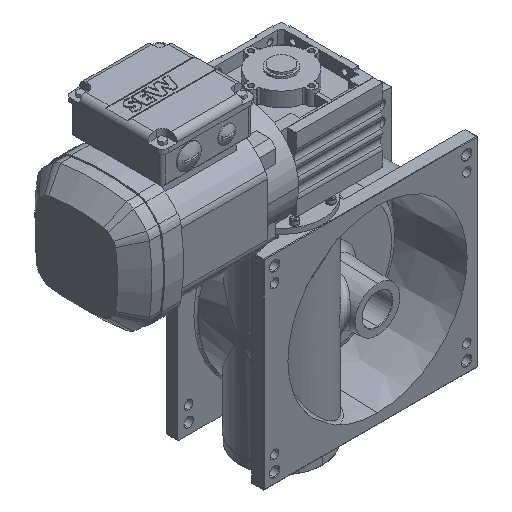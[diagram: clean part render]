
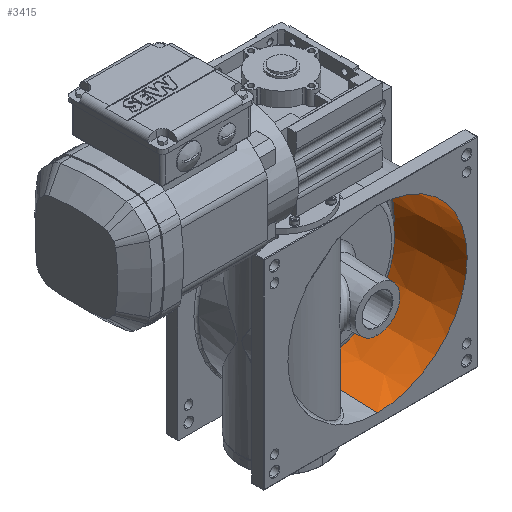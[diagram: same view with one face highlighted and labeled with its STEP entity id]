
A CAD part, isometric view. The second image highlights one B-rep face of the part: STEP entity #3415.
In plain terms, the highlighted conical face has half-angle 2 degrees and reference radius 104.105 mm.
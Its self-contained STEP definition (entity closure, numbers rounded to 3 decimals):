
#158 = VERTEX_POINT ( 'NONE', #37407 ) ;
#3415 = ADVANCED_FACE ( 'NONE', ( #12359 ), #66132, .F. ) ;
#7696 = CARTESIAN_POINT ( 'NONE',  ( 0., 3., 104. ) ) ;
#8896 = DIRECTION ( 'NONE',  ( 0., 0., -1. ) ) ;
#11199 = EDGE_CURVE ( 'NONE', #28930, #44722, #57930, .T. ) ;
#12359 = FACE_OUTER_BOUND ( 'NONE', #47403, .T. ) ;
#13053 = CARTESIAN_POINT ( 'NONE',  ( 0., 0., 0. ) ) ;
#14048 = LINE ( 'NONE', #34744, #54910 ) ;
#14138 = DIRECTION ( 'NONE',  ( 0., -0.999, 0.035 ) ) ;
#14377 = CARTESIAN_POINT ( 'NONE',  ( 0., 84.705, 0. ) ) ;
#19340 = ORIENTED_EDGE ( 'NONE', *, *, #11199, .T. ) ;
#19396 = EDGE_CURVE ( 'NONE', #40162, #158, #36924, .T. ) ;
#23102 = CARTESIAN_POINT ( 'NONE',  ( 0., 84.705, 101.147 ) ) ;
#24445 = ORIENTED_EDGE ( 'NONE', *, *, #19396, .F. ) ;
#27816 = AXIS2_PLACEMENT_3D ( 'NONE', #14377, #36836, #68568 ) ;
#28613 = EDGE_CURVE ( 'NONE', #44722, #158, #14048, .T. ) ;
#28930 = VERTEX_POINT ( 'NONE', #23102 ) ;
#31386 = DIRECTION ( 'NONE',  ( 0., 1., 0. ) ) ;
#33048 = ORIENTED_EDGE ( 'NONE', *, *, #68589, .F. ) ;
#34461 = DIRECTION ( 'NONE',  ( 0., -1., 0. ) ) ;
#34744 = CARTESIAN_POINT ( 'NONE',  ( 0., 0., -104.105 ) ) ;
#36054 = AXIS2_PLACEMENT_3D ( 'NONE', #13053, #34461, #55753 ) ;
#36278 = CARTESIAN_POINT ( 'NONE',  ( 0., 3., 0. ) ) ;
#36836 = DIRECTION ( 'NONE',  ( 0., 1., 0. ) ) ;
#36924 = CIRCLE ( 'NONE', #46953, 104. ) ;
#37407 = CARTESIAN_POINT ( 'NONE',  ( 0., 3., -104. ) ) ;
#40162 = VERTEX_POINT ( 'NONE', #7696 ) ;
#44722 = VERTEX_POINT ( 'NONE', #50452 ) ;
#44918 = DIRECTION ( 'NONE',  ( 0., -0.999, -0.035 ) ) ;
#45468 = VECTOR ( 'NONE', #14138, 1000. ) ;
#46953 = AXIS2_PLACEMENT_3D ( 'NONE', #36278, #31386, #8896 ) ;
#47403 = EDGE_LOOP ( 'NONE', ( #33048, #19340, #64664, #24445 ) ) ;
#50452 = CARTESIAN_POINT ( 'NONE',  ( 0., 84.705, -101.147 ) ) ;
#54910 = VECTOR ( 'NONE', #44918, 1000. ) ;
#55753 = DIRECTION ( 'NONE',  ( 0., 0., -1. ) ) ;
#57930 = CIRCLE ( 'NONE', #27816, 101.147 ) ;
#62729 = LINE ( 'NONE', #67646, #45468 ) ;
#64664 = ORIENTED_EDGE ( 'NONE', *, *, #28613, .T. ) ;
#66132 = CONICAL_SURFACE ( 'NONE', #36054, 104.105, 0.035 ) ;
#67646 = CARTESIAN_POINT ( 'NONE',  ( 0., 0., 104.105 ) ) ;
#68568 = DIRECTION ( 'NONE',  ( 0., 0., 1. ) ) ;
#68589 = EDGE_CURVE ( 'NONE', #28930, #40162, #62729, .T. ) ;
